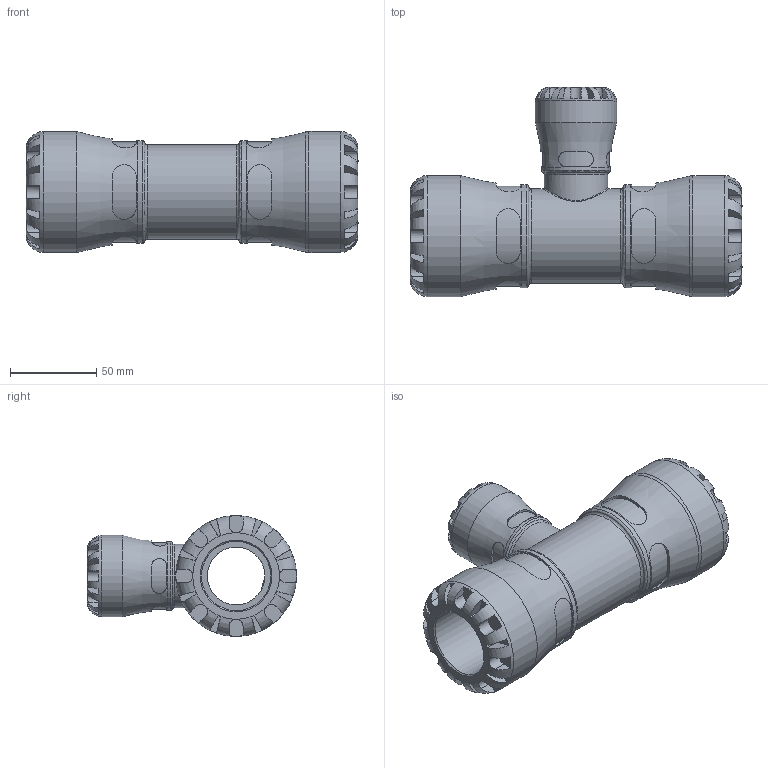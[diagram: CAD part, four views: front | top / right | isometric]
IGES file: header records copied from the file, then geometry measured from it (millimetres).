
Global section: file name: 103400040025_193400040025.ipt; native system: Autodesk Inventor 2015; preprocessor: unknown; author: KIM; date: 20170122.114100; units: millimetre
Bounding box: 192 x 121 x 70 mm (x, y, z)
Volume: 404782.2 mm3; surface area: 84354.9 mm2
Topology: 1 solids, 1 shells, 287 faces, 749 edges, 477 vertices
Faces by surface type: plane 174, revolution 68, cylinder 44, bspline 1
Full cylindrical faces by diameter (mm): 36.66 x1, 39.95 x1, 47 x1, 54.6 x1, 59.5 x2, 70 x2
